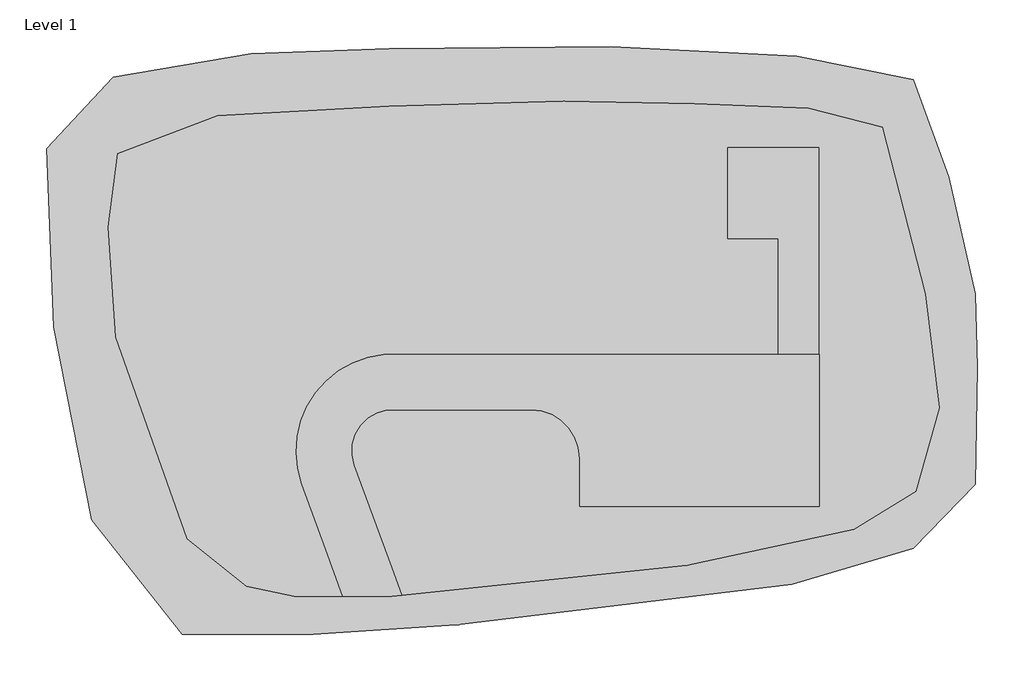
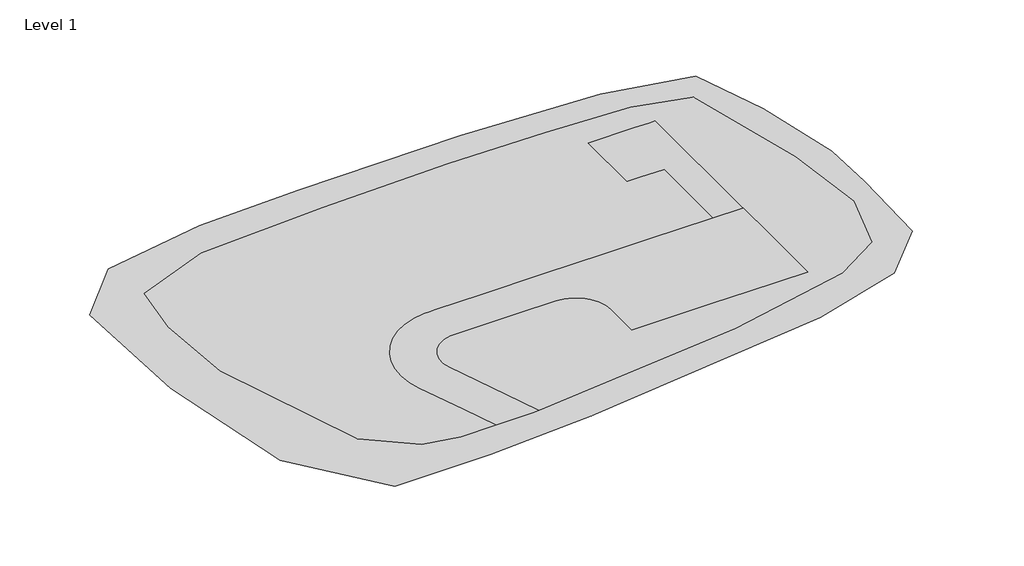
# One storey: 4 proxies.
"""IFC4 building model written with IfcOpenShell, lengths in millimetres."""

from ifc_helpers import new_model, si_unit, origin, place, context, project, spatial, triangles, element, save

model = new_model("IFC4")

# Units and contexts
model_context = context("Model", 3, world=origin())
ifc_project = project(units=[si_unit("LENGTHUNIT", "METRE", prefix="MILLI")], contexts=[model_context])

# Site, building, storey
site = spatial("IfcSite", under=ifc_project)
building = spatial("IfcBuilding", under=site)
storey = spatial("IfcBuildingStorey", under=building, Name="Level 1", Elevation=0.0)

# Proxies
placement = place(None, origin())
element("IfcBuildingElementProxy", 1, Name="Building Element Proxy", at=placement, inside=storey, context=model_context, shape_type="Tessellation", body=[
    triangles([(-16670.5417511, 5651.6538666, 0.0), (-16985.1585938, 8011.2813492, 0.0), (-14782.8395325, 10370.9088318, 0.0), (-10220.8924072, 11157.4515198, 0.0), (-5658.9458633, 11314.7593597, 0.0), (1655.8995071, 11393.4138611, 0.0), (7790.931427, 11078.7970184, 0.0), (11644.9892029, 10292.2543304, 0.0), (12824.8032349, 7067.4302399, 0.0), (13690.0004242, 3213.3718826, 0.0), (13768.6549255, 775.090044, 0.0), (13690.0004242, -3078.9684586, 0.0), (11644.9892029, -5202.6330185, 0.0), (7633.6230057, -6382.4470505, 0.0), (2757.0590378, -6854.3723145, 0.0), (-3456.6268021, -7719.5695038, 0.0), (-8175.8823486, -8034.1863464, 0.0), (-12501.8659698, -8034.1863464, 0.0), (-15490.7277191, -4258.7821999, 0.0), (-16749.1962524, 2112.212352, 0.0)], [[20, 19, 17], [20, 17, 5], [17, 19, 18], [5, 17, 16], [2, 1, 3], [1, 2, 20], [1, 4, 3], [1, 20, 4], [20, 5, 4], [16, 6, 5], [7, 15, 14], [14, 15, 16], [13, 12, 11], [13, 11, 14], [10, 14, 11], [6, 15, 7], [7, 9, 8], [9, 7, 10], [14, 10, 7], [15, 6, 16]], closed=False),
])
element("IfcBuildingElementProxy", 2, Name="Building Element Proxy", at=placement, inside=storey, context=model_context, shape_type="Tessellation", body=[
    triangles([(-14940.1473724, 5415.6909439, 304.8), (-14704.1850311, 1797.595364, 304.8), (-12344.5569672, -4888.0161758, 304.8), (-10378.2014099, -6461.1009705, 304.8), (-8805.1160339, -6775.7183945, 304.8), (-7192.7039886, -6775.7183945, 304.8), (-7757.5573013, -5232.607933, 304.8), (-8548.5869247, -3071.6119308, 304.8), (-8688.8417358, -2560.4969078, 304.8), (-8742.6256622, -2033.2238594, 304.8), (-8708.4579803, -1504.3170444, 304.8), (-8587.2787491, -988.3466492, 304.8), (-8382.4267181, -499.5261229, 304.8), (-8099.5451477, -51.3211407, 304.8), (-7746.426004, 343.9215219, 304.8), (-7332.7971817, 675.3140121, 304.8), (-6870.0527527, 933.727454, 304.8), (-6370.9401947, 1112.043314, 304.8), (-5849.2086685, 1205.3493919, 304.8), (-5619.0471359, 1207.8360861, 304.8), (-5319.2305527, 1211.0754232, 304.8), (-3235.2313042, 1211.0754232, 304.8), (-497.5126193, 1211.0754232, 304.8), (2315.692083, 1211.0754232, 304.8), (4280.5308723, 1211.0754232, 304.8), (7177.5694473, 1211.0754232, 304.8), (7177.5694473, 5021.0754959, 304.8), (6108.279483, 5021.0754959, 304.8), (5501.1694473, 5021.0754959, 304.8), (5501.1694473, 8069.0754959, 304.8), (7570.4780228, 8069.0754959, 304.8), (8241.5818268, 8069.0754959, 304.8), (8549.1694473, 8069.0754959, 304.8), (8549.1694473, 1211.0754232, 304.8), (8549.1694473, -764.1921627, 304.8), (8549.1694473, -3818.1245041, 304.8), (5870.2818008, -3818.1245041, 304.8), (4202.7597473, -3818.1245041, 304.8), (3656.8119667, -3818.1245041, 304.8), (624.3696653, -3818.1245041, 304.8), (624.3696653, -2222.0813725, 304.8), (584.1608914, -1865.2185619, 304.8), (465.5507984, -1526.250444, 304.8), (274.4870065, -1222.1742371, 304.8), (20.5502514, -968.2374115, 304.8), (-283.526026, -777.1736378, 304.8), (-622.4941984, -658.5635811, 304.8), (-627.0559839, -658.0495863, 304.8), (-979.3569363, -618.3547709, 304.8), (-2695.5491295, -618.3547709, 304.8), (-5399.2907822, -618.3547709, 304.8), (-5610.1651199, -621.8167688, 304.8), (-5744.8435272, -624.0278984, 304.8), (-6077.8842453, -716.3483534, 304.8), (-6377.0409851, -889.3920788, 304.8), (-6623.117244, -1132.0549559, 304.8), (-6800.3227066, -1428.765406, 304.8), (-6897.2865555, -1760.4836758, 304.8), (-6907.7853333, -2105.9234917, 304.8), (-6831.1469879, -2442.9180382, 304.8), (-5584.7951569, -5848.0168808, 304.8), (-5257.4569977, -6742.3215958, 304.8), (-1018.3451088, -6303.7925491, 304.8), (4172.8357018, -5753.2127838, 304.8), (9678.6330643, -4573.3990425, 304.8), (11723.6437042, -3314.9310905, 304.8), (12510.1863922, -562.0322639, 304.8), (12038.2605469, 3213.3718826, 304.8), (10622.4841736, 8719.1695358, 304.8), (8184.202771, 9348.4038025, 304.8), (4408.7983337, 9505.7122238, 304.8), (82.8144582, 9584.3661438, 304.8), (-5658.9458633, 9427.0577225, 304.8), (-11322.0519379, 9112.4408798, 304.8), (-14625.5305298, 7853.9729279, 304.8), (11173.0645203, 6516.8504745, 304.8), (-13681.6800018, -1033.9578186, 304.8)], [[3, 4, 8], [4, 7, 8], [7, 4, 5], [3, 8, 9], [77, 10, 11], [77, 3, 10], [11, 12, 77], [3, 9, 10], [13, 77, 12], [3, 77, 2], [6, 7, 5], [60, 52, 59], [60, 50, 51], [58, 59, 52], [52, 57, 58], [57, 52, 56], [56, 52, 55], [61, 50, 60], [13, 14, 2], [15, 16, 1], [14, 15, 2], [2, 15, 1], [1, 74, 75], [1, 16, 74], [74, 17, 73], [17, 74, 16], [13, 2, 77], [54, 52, 53], [54, 55, 52], [60, 51, 52], [19, 73, 18], [73, 19, 20], [21, 22, 73], [20, 21, 73], [73, 22, 72], [18, 73, 17], [61, 62, 63], [44, 48, 43], [49, 41, 48], [48, 42, 43], [40, 50, 63], [48, 41, 42], [48, 46, 47], [46, 48, 45], [44, 45, 48], [50, 40, 49], [64, 38, 39], [38, 64, 37], [64, 36, 37], [36, 64, 65], [36, 65, 66], [40, 41, 49], [35, 36, 66], [35, 66, 67], [40, 64, 39], [64, 40, 63], [23, 72, 22], [29, 24, 25], [24, 72, 23], [29, 25, 26], [71, 72, 30], [28, 29, 26], [29, 30, 72], [72, 24, 29], [71, 30, 70], [28, 26, 27], [68, 76, 34], [76, 33, 34], [68, 34, 67], [76, 68, 69], [31, 70, 30], [70, 31, 32], [33, 69, 70], [69, 33, 76], [33, 70, 32], [34, 35, 67], [63, 50, 61]], closed=False),
])
element("IfcBuildingElementProxy", 3, Name="Building Element Proxy", at=placement, inside=storey, context=model_context, shape_type="Tessellation", body=[
    triangles([(-5580.2919434, -6775.7183945, 304.8), (-5257.4569977, -6742.3215958, 304.8), (-5584.7951569, -5848.0168808, 304.8), (-6831.1469879, -2442.9180382, 304.8), (-6907.7853333, -2105.9234917, 304.8), (-6897.2865555, -1760.4836758, 304.8), (-6800.3227066, -1428.765406, 304.8), (-6623.117244, -1132.0549559, 304.8), (-6377.0409851, -889.3920788, 304.8), (-6077.8842453, -716.3483534, 304.8), (-5744.8435272, -624.0278984, 304.8), (-5610.1651199, -621.8167688, 304.8), (-5399.2907822, -618.3547709, 304.8), (-2695.5491295, -618.3547709, 304.8), (-979.3569363, -618.3547709, 304.8), (-627.0559839, -658.0495863, 304.8), (-622.4941984, -658.5635811, 304.8), (-283.526026, -777.1736378, 304.8), (20.5502514, -968.2374115, 304.8), (274.4870065, -1222.1742371, 304.8), (465.5507984, -1526.250444, 304.8), (584.1608914, -1865.2185619, 304.8), (624.3696653, -2222.0813725, 304.8), (624.3696653, -3818.1245041, 304.8), (3656.8119667, -3818.1245041, 304.8), (4202.7597473, -3818.1245041, 304.8), (5870.2818008, -3818.1245041, 304.8), (8549.1694473, -3818.1245041, 304.8), (8549.1694473, -764.1921627, 304.8), (8549.1694473, 1211.0754232, 304.8), (4280.5308723, 1211.0754232, 304.8), (2315.692083, 1211.0754232, 304.8), (-497.5126193, 1211.0754232, 304.8), (-3235.2313042, 1211.0754232, 304.8), (-5319.2305527, 1211.0754232, 304.8), (-5619.0471359, 1207.8360861, 304.8), (-5849.2086685, 1205.3493919, 304.8), (-6370.9401947, 1112.043314, 304.8), (-6870.0527527, 933.727454, 304.8), (-7332.7971817, 675.3140121, 304.8), (-7746.426004, 343.9215219, 304.8), (-8099.5451477, -51.3211407, 304.8), (-8382.4267181, -499.5261229, 304.8), (-8587.2787491, -988.3466492, 304.8), (-8708.4579803, -1504.3170444, 304.8), (-8742.6256622, -2033.2238594, 304.8), (-8688.8417358, -2560.4969078, 304.8), (-8548.5869247, -3071.6119308, 304.8), (-7757.5573013, -5232.607933, 304.8), (-7192.7039886, -6775.7183945, 304.8)], [[4, 48, 49], [4, 47, 48], [45, 46, 6], [47, 5, 46], [49, 50, 3], [4, 5, 47], [3, 4, 49], [44, 6, 7], [45, 6, 44], [5, 6, 46], [50, 1, 3], [43, 7, 8], [8, 42, 43], [42, 8, 41], [41, 9, 40], [39, 40, 10], [44, 7, 43], [10, 11, 38], [10, 38, 39], [38, 11, 37], [36, 12, 13], [36, 37, 11], [12, 36, 11], [10, 40, 9], [41, 8, 9], [32, 20, 21], [32, 19, 20], [21, 22, 32], [26, 31, 25], [27, 31, 26], [23, 24, 25], [32, 22, 25], [25, 22, 23], [29, 27, 28], [13, 14, 34], [13, 34, 35], [33, 34, 14], [15, 33, 14], [15, 16, 33], [13, 35, 36], [33, 17, 18], [31, 27, 29], [25, 31, 32], [18, 19, 33], [19, 32, 33], [29, 30, 31], [17, 33, 16], [2, 3, 1]], closed=False),
])
element("IfcBuildingElementProxy", 4, Name="Building Element Proxy", at=placement, inside=storey, context=model_context, shape_type="Tessellation", body=[
    triangles([(8549.1694473, 1211.0754232, 304.8), (8549.1694473, 8069.0754959, 304.8), (8241.5818268, 8069.0754959, 304.8), (7570.4780228, 8069.0754959, 304.8), (5501.1694473, 8069.0754959, 304.8), (5501.1694473, 5021.0754959, 304.8), (6108.279483, 5021.0754959, 304.8), (7177.5694473, 5021.0754959, 304.8), (7177.5694473, 1211.0754232, 304.8)], [[5, 7, 4], [5, 6, 7], [7, 8, 4], [8, 1, 2], [4, 8, 3], [3, 8, 2], [1, 8, 9]], closed=False),
])

save(model, "model.ifc")
